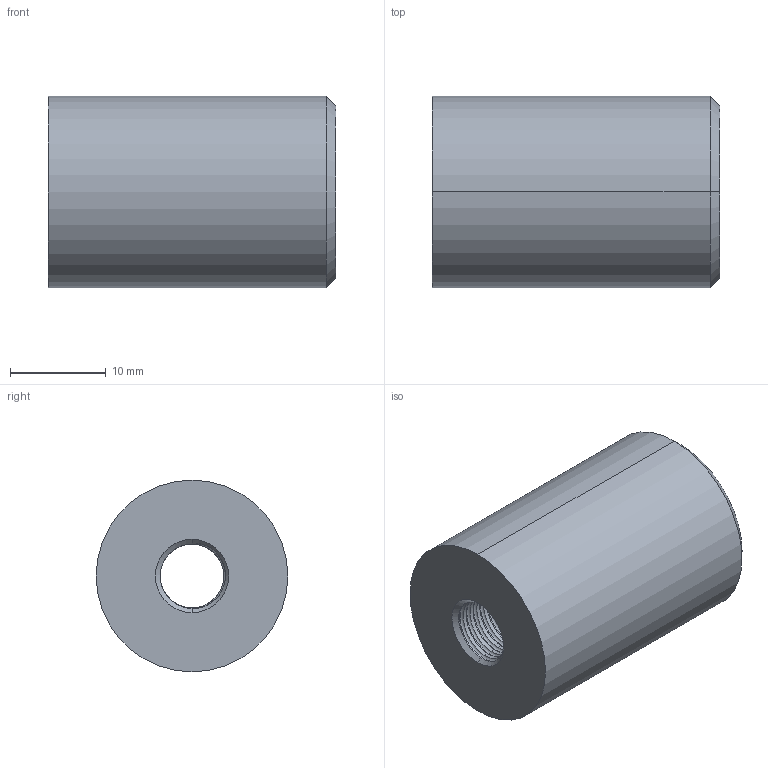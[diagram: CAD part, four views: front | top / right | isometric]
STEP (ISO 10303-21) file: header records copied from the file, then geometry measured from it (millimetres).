
FILE_DESCRIPTION (( 'STEP AP203' ), '1' );
FILE_NAME ('KD-208-7.STEP', '2009-08-13T08:59:24', ( 'kj06' ), ( 'kongjin' ), 'SwSTEP 2.0', 'SolidWorks 2007', '' );
FILE_SCHEMA (( 'CONFIG_CONTROL_DESIGN' ));
Length unit declared in the file: millimetre
Products named in the file (1): KD-208-7
Bounding box: 30 x 20 x 20 mm (x, y, z)
Volume: 8292 mm3; surface area: 3128.4 mm2
Topology: 1 solids, 1 shells, 71 faces, 203 edges, 134 vertices
Faces by surface type: cylinder 61, cone 6, bspline 2, plane 2
Entity records: 11945 total; most frequent: CARTESIAN_POINT 10365, ORIENTED_EDGE 406, DIRECTION 234, EDGE_CURVE 203, VERTEX_POINT 134, AXIS2_PLACEMENT_3D 84, EDGE_LOOP 73, FACE_OUTER_BOUND 71
